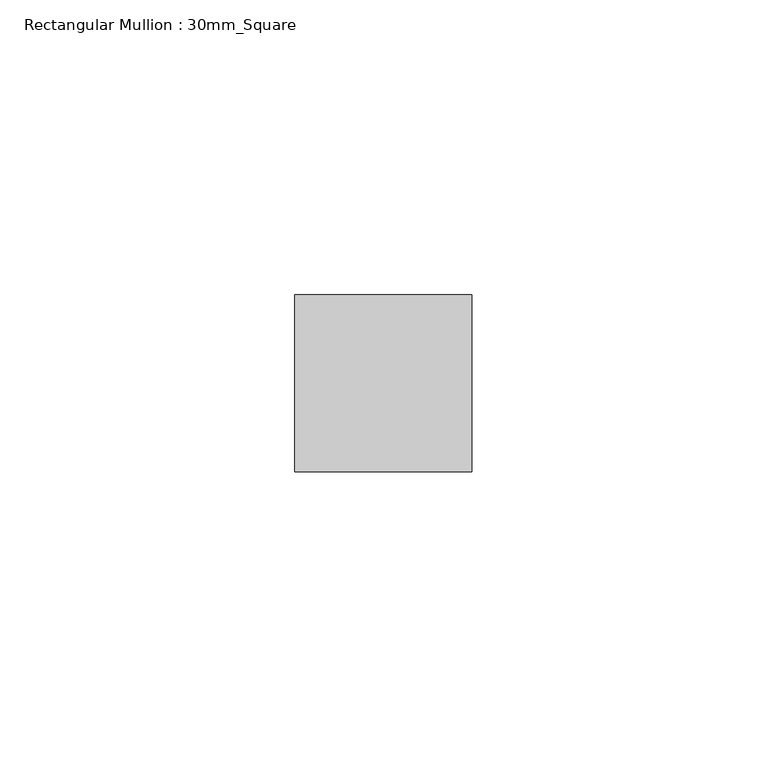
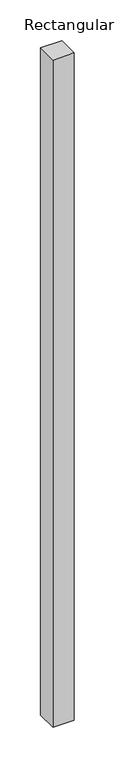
"""IFC4 building model written with IfcOpenShell, lengths in millimetres: member geometry, Rectangular Mullion : 30mm_Square."""

from ifc_helpers import new_model, si_unit, frame, origin, place, context, project, spatial, polyline, outline, extrude, source, transform, mapped, element, save


def rectangular_mullion_30mm_square_115825c0(model_context):
    return source(origin(), model_context, "Body", "SweptSolid", [
        extrude(outline(polyline([(0.0, 2.5), (0.0, -27.5), (-30.0, -27.5), (-30.0, 2.5), (0.0, 2.5)])), frame((0.0, 0.0, -997.4857145), z_axis=(0.0, 0.0, 1.0), x_axis=(1.0, 0.0, 0.0)), (0.0, 0.0, 1.0), 997.4857145),
    ])


if __name__ == "__main__":
    model = new_model("IFC4")
    model_context = context("Model", 3, world=origin())
    ifc_project = project(units=[si_unit("LENGTHUNIT", "METRE", prefix="MILLI")], contexts=[model_context])
    site = spatial("IfcSite", under=ifc_project)
    building = spatial("IfcBuilding", under=site)
    placement = place(None, origin())
    rectangular_mullion_30mm_square_shape = rectangular_mullion_30mm_square_115825c0(model_context)
    element("IfcMember", 1, ObjectType="Rectangular Mullion : 30mm_Square", at=placement, inside=building, context=model_context, shape_type="MappedRepresentation", body=[
        mapped(rectangular_mullion_30mm_square_shape, transform((0.0, 0.0, 0.0), x_axis=(1.0, 0.0, 0.0), y_axis=(0.0, 1.0, 0.0), z_axis=(0.0, 0.0, 1.0))),
    ])
    save(model, "model.ifc")
